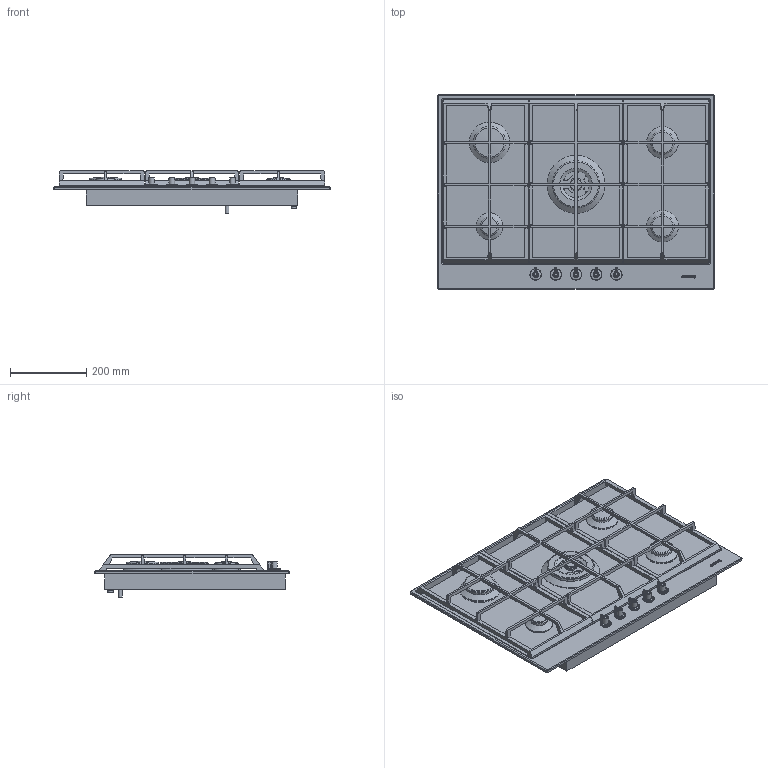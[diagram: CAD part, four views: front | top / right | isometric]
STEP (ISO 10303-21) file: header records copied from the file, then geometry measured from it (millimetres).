
FILE_DESCRIPTION(/* description */ (''),/* implementation_level */ '2;1');
FILE_NAME(/* name */ 'piano px175.stp',/* time_stamp */ '2018-10-26T10:00:58+02:00',/* author */ (''),/* organization */ (''),/* preprocessor_version */ 'ST-DEVELOPER v16',/* originating_system */ 'SIEMENS PLM Software NX 11.0',/* authorisation */ '');
FILE_SCHEMA (('AUTOMOTIVE_DESIGN { 1 0 10303 214 3 1 1 1 }'));
Length unit declared in the file: millimetre
Products named in the file (1): gobb8D2022187183
Bounding box: 725 x 510 x 110.5 mm (x, y, z)
Volume: 13400182.5 mm3; surface area: 1866778.5 mm2
Topology: 37 solids, 37 shells, 948 faces, 2330 edges, 1455 vertices
Faces by surface type: plane 461, cylinder 230, cone 114, torus 70, bspline 40, sphere 22, extrusion 11
Full cylindrical faces by diameter (mm): 3 x20, 3.37 x6, 6 x12, 10 x6, 14 x2, 21.4 x5, 23 x6, 23.5 x1, 23.8 x5, 28 x1, 32 x1, 42 x1, 43 x1, 55 x2, 56 x2, 70.5 x1, 77.5 x1, 78.5 x1, 79.5 x1, 83 x2, 85 x1, 89.5 x1, 90 x1, 98.5 x1, 106 x1, 106.5 x1, 111 x1, 113.5 x1, 122 x1, 124 x1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
Entity records: 30122 total; most frequent: CARTESIAN_POINT 8186, DIRECTION 4524, ORIENTED_EDGE 4318, EDGE_CURVE 2159, AXIS2_PLACEMENT_3D 1669, VERTEX_POINT 1420, VECTOR 1186, LINE 1175
